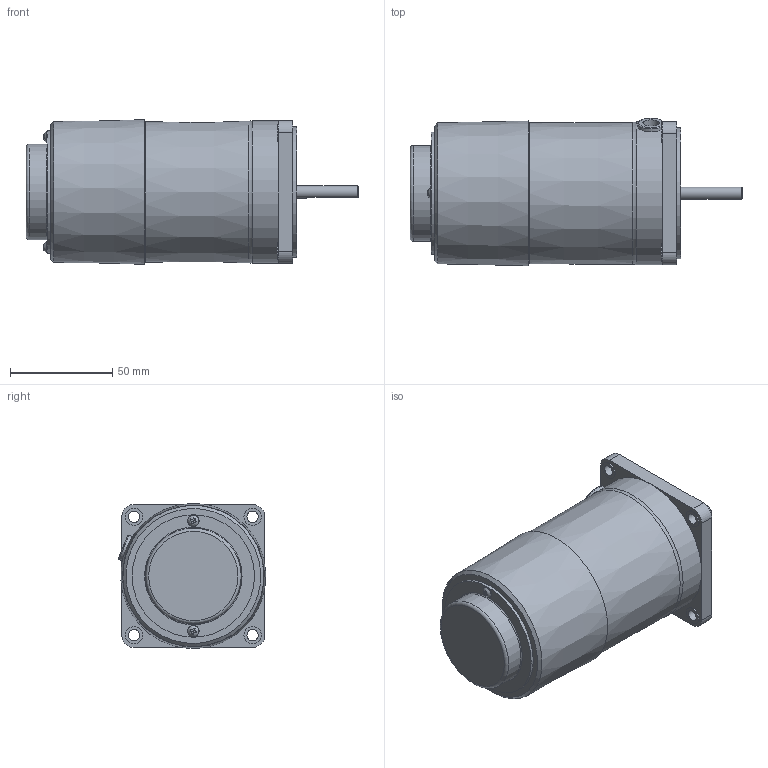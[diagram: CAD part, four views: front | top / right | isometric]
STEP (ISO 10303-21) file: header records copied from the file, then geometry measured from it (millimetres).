
FILE_DESCRIPTION((''),'2;1');
FILE_NAME('D:\김성묵\업무폴더\개발 파일\프로젝트 개발 AB등급\AC표준형 개발자료\90각 이하 표준형 개발\도면작성 자료\3D 도면\홈페이지용 3D 파일\15W MOTOR\ES TYPE\S7R15D-ES.stp','2015-03-30T19:52:10',('smkim'),(''),'Autodesk Inventor 2012','Autodesk Inventor 2012','');
FILE_SCHEMA(('AUTOMOTIVE_DESIGN { 1 0 10303 214 1 1 1 1 }'));
Length unit declared in the file: millimetre
Products named in the file (1): 부품99
Bounding box: 162.5 x 72.14 x 70.84 mm (x, y, z)
Volume: 477062.3 mm3; surface area: 42688.3 mm2
Topology: 1 solids, 6 shells, 160 faces, 373 edges, 242 vertices
Faces by surface type: plane 98, cylinder 46, torus 9, cone 5, bspline 2
Full cylindrical faces by diameter (mm): 3 x2, 3.5 x2, 5 x1, 5.5 x4, 5.6 x2, 6 x1, 6.5 x2, 8 x1, 8.5 x4, 10 x1, 28 x1, 44.7 x1, 46.7 x1, 47.7 x1, 59.9 x1, 64 x1, 68 x1, 70 x1
Entity records: 4565 total; most frequent: CARTESIAN_POINT 1047, DIRECTION 720, ORIENTED_EDGE 630, EDGE_CURVE 315, AXIS2_PLACEMENT_3D 282, EDGE_LOOP 233, VERTEX_POINT 226, FACE_OUTER_BOUND 160
